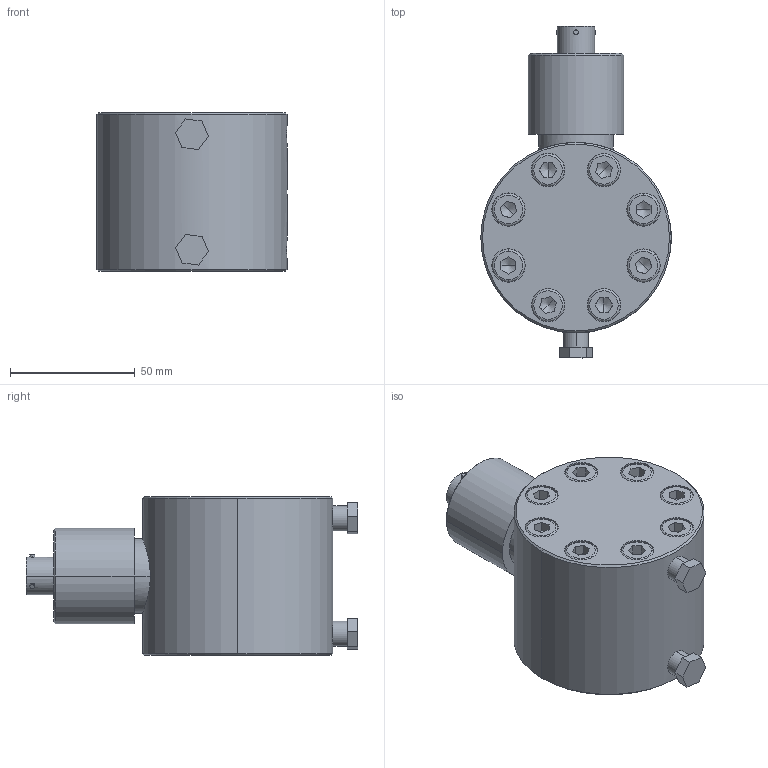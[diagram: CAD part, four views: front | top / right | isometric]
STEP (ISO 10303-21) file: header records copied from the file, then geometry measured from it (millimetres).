
FILE_DESCRIPTION(('STEP AP214'),'1');
FILE_NAME('burster_8313-10_cputnzrm4ctv9jqwd9lnj8ynx.stp','2017-04-20T12:59:43',('TraceParts'),('TraceParts S.A.'),'Spatial InterOp 3D',' ',' ');
FILE_SCHEMA(('automotive_design'));
Length unit declared in the file: millimetre
Products named in the file (19): 8313.0001-IAM|DIFFERENZDRUCKSENSOR-8313.0000-IPT:1#8313.0000-IPT;Volumenkörper1; burster_8313-10_cputnzrm4ctv9jqwd9lnj8ynx_2; burster_8313-10_cputnzrm4ctv9jqwd9lnj8ynx_3; burster_8313-10_cputnzrm4ctv9jqwd9lnj8ynx_4; burster_8313-10_cputnzrm4ctv9jqwd9lnj8ynx_5; burster_8313-10_cputnzrm4ctv9jqwd9lnj8ynx_6; burster_8313-10_cputnzrm4ctv9jqwd9lnj8ynx_7; burster_8313-10_cputnzrm4ctv9jqwd9lnj8ynx_8; burster_8313-10_cputnzrm4ctv9jqwd9lnj8ynx_9; burster_8313-10_cputnzrm4ctv9jqwd9lnj8ynx_10; burster_8313-10_cputnzrm4ctv9jqwd9lnj8ynx_11; burster_8313-10_cputnzrm4ctv9jqwd9lnj8ynx_12; burster_8313-10_cputnzrm4ctv9jqwd9lnj8ynx_13; burster_8313-10_cputnzrm4ctv9jqwd9lnj8ynx_14; burster_8313-10_cputnzrm4ctv9jqwd9lnj8ynx_15; burster_8313-10_cputnzrm4ctv9jqwd9lnj8ynx_16; burster_8313-10_cputnzrm4ctv9jqwd9lnj8ynx_17
Bounding box: 76.2 x 132.8 x 63.5 mm (x, y, z)
Volume: 329977.2 mm3; surface area: 59327.7 mm2
Topology: 19 solids, 19 shells, 553 faces, 1373 edges, 853 vertices
Faces by surface type: plane 191, cylinder 174, cone 112, torus 64, sphere 12
Entity records: 21117 total; most frequent: CARTESIAN_POINT 3400, DIRECTION 2897, ORIENTED_EDGE 2574, EDGE_CURVE 1287, AXIS2_PLACEMENT_3D 1190, VERTEX_POINT 853, EDGE_LOOP 634, CIRCLE 618
